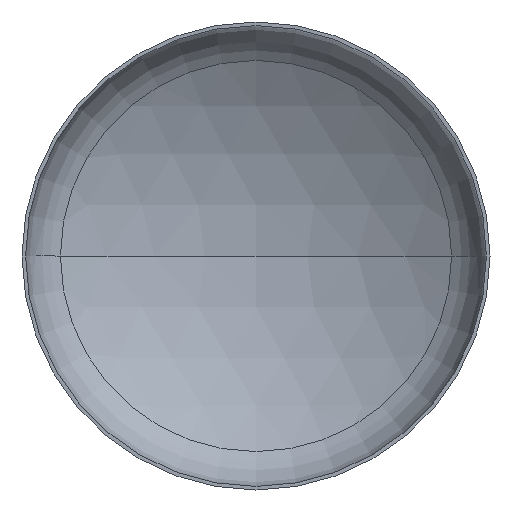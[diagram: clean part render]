
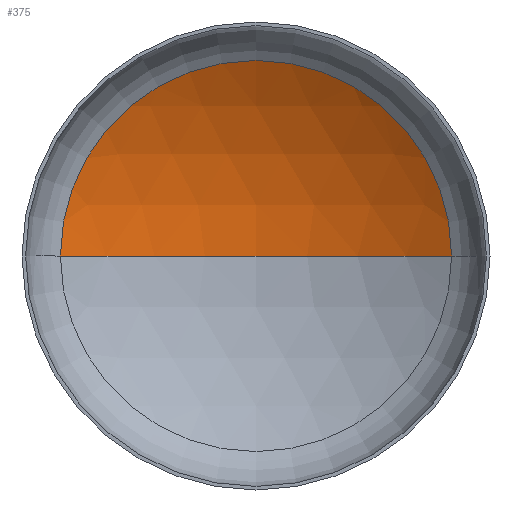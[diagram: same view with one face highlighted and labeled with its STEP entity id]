
A CAD part, front view. The second image highlights one B-rep face of the part: STEP entity #375.
In plain terms, the highlighted spherical face has radius 720 mm.
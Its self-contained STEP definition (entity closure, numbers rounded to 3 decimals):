
#2 = AXIS2_PLACEMENT_3D ( 'NONE', #280, #297, #70 ) ;
#7 = VERTEX_POINT ( 'NONE', #273 ) ;
#12 = EDGE_LOOP ( 'NONE', ( #158, #106, #124 ) ) ;
#45 = AXIS2_PLACEMENT_3D ( 'NONE', #223, #219, #220 ) ;
#47 = AXIS2_PLACEMENT_3D ( 'NONE', #197, #201, #309 ) ;
#50 = AXIS2_PLACEMENT_3D ( 'NONE', #318, #300, #298 ) ;
#70 = DIRECTION ( 'NONE',  ( -1., 0., 0. ) ) ;
#79 = EDGE_CURVE ( 'NONE', #132, #7, #233, .T. ) ;
#81 = EDGE_CURVE ( 'NONE', #98, #132, #394, .T. ) ;
#82 = EDGE_CURVE ( 'NONE', #98, #7, #285, .T. ) ;
#98 = VERTEX_POINT ( 'NONE', #204 ) ;
#106 = ORIENTED_EDGE ( 'NONE', *, *, #81, .T. ) ;
#124 = ORIENTED_EDGE ( 'NONE', *, *, #79, .T. ) ;
#132 = VERTEX_POINT ( 'NONE', #260 ) ;
#158 = ORIENTED_EDGE ( 'NONE', *, *, #82, .F. ) ;
#182 = FACE_OUTER_BOUND ( 'NONE', #12, .T. ) ;
#197 = CARTESIAN_POINT ( 'NONE',  ( 0., -469.561, 0. ) ) ;
#201 = DIRECTION ( 'NONE',  ( 0., 0., -1. ) ) ;
#204 = CARTESIAN_POINT ( 'NONE',  ( 0., 250.439, 0. ) ) ;
#219 = DIRECTION ( 'NONE',  ( 0., 0., 1. ) ) ;
#220 = DIRECTION ( 'NONE',  ( 1., 0., 0. ) ) ;
#223 = CARTESIAN_POINT ( 'NONE',  ( 0., -469.561, 0. ) ) ;
#233 = CIRCLE ( 'NONE', #50, 376.138 ) ;
#260 = CARTESIAN_POINT ( 'NONE',  ( 376.138, 144.377, 0. ) ) ;
#273 = CARTESIAN_POINT ( 'NONE',  ( -376.138, 144.377, 0. ) ) ;
#280 = CARTESIAN_POINT ( 'NONE',  ( 0., -469.561, 0. ) ) ;
#285 = CIRCLE ( 'NONE', #45, 720. ) ;
#297 = DIRECTION ( 'NONE',  ( 0., 0., -1. ) ) ;
#298 = DIRECTION ( 'NONE',  ( 1., 0., 0. ) ) ;
#300 = DIRECTION ( 'NONE',  ( 0., -1., 0. ) ) ;
#309 = DIRECTION ( 'NONE',  ( -1., 0., 0. ) ) ;
#318 = CARTESIAN_POINT ( 'NONE',  ( 0., 144.377, 0. ) ) ;
#375 = ADVANCED_FACE ( 'NONE', ( #182 ), #403, .F. ) ;
#394 = CIRCLE ( 'NONE', #47, 720. ) ;
#403 = SPHERICAL_SURFACE ( 'NONE', #2, 720. ) ;
